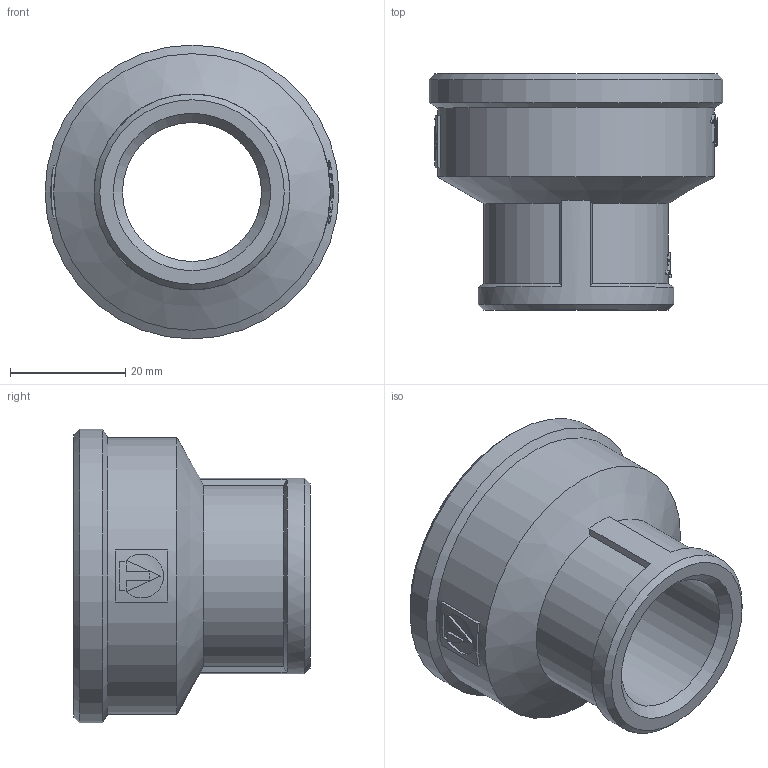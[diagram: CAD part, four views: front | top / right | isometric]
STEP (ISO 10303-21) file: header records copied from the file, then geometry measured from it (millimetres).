
FILE_DESCRIPTION(('STEP AP203'), '1');
FILE_NAME('ﾂﾐ.714361.007 - VTr.240.N.0705 ﾌ G1 1-43-4', '2024-06-27T08:12:17', ('Boss'), (''), 'C3D Converter', 'C3D Toolkit', '');
FILE_SCHEMA(('CONFIG_CONTROL_DESIGN'));
Length unit declared in the file: millimetre
Products named in the file (1): ВР.714361.007
Bounding box: 51 x 41 x 51 mm (x, y, z)
Volume: 21227.9 mm3; surface area: 11546.2 mm2
Topology: 1 solids, 1 shells, 251 faces, 700 edges, 464 vertices
Faces by surface type: extrusion 132, plane 88, cylinder 22, cone 9
Full cylindrical faces by diameter (mm): 24.118 x1, 34 x1, 38.953 x1, 48 x1, 51 x1
Entity records: 10797 total; most frequent: CARTESIAN_POINT 5090, ORIENTED_EDGE 1374, DIRECTION 767, EDGE_CURVE 687, VERTEX_POINT 464, B_SPLINE_CURVE_WITH_KNOTS 406, VECTOR 399, EDGE_LOOP 279
